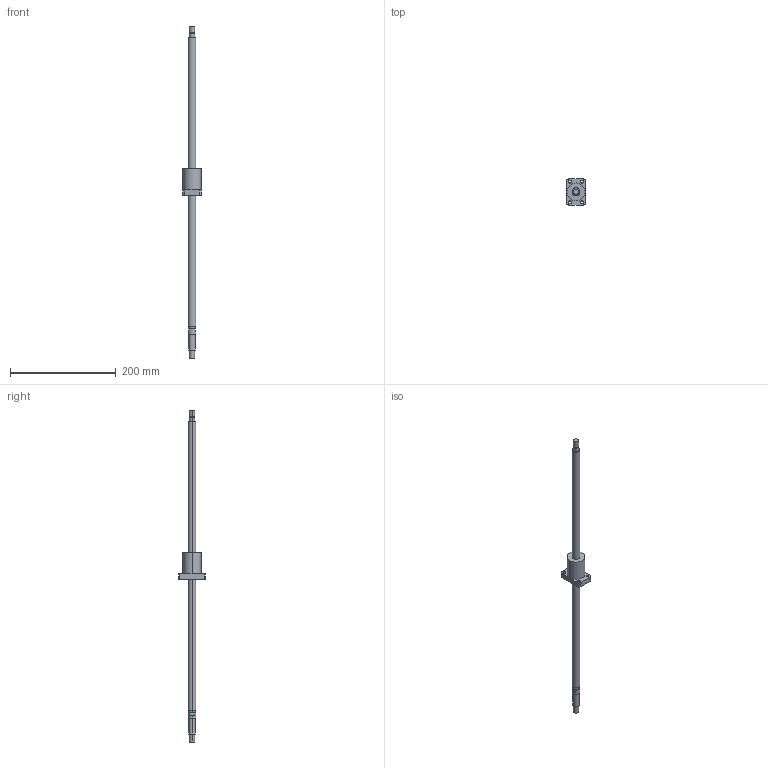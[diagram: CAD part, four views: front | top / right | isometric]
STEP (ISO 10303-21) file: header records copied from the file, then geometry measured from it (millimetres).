
FILE_DESCRIPTION((''),'2;1');
FILE_NAME('R15-10K3-FSC-539-621','2008-03-28T',('mahdi'),(''),'PRO/ENGINEER BY PARAMETRIC TECHNOLOGY CORPORATION, 2005070','PRO/ENGINEER BY PARAMETRIC TECHNOLOGY CORPORATION, 2005070','');
FILE_SCHEMA(('CONFIG_CONTROL_DESIGN'));
Length unit declared in the file: millimetre
Products named in the file (1): R15-10K3-FSC-539-621
Bounding box: 34 x 50 x 627 mm (x, y, z)
Volume: 147202.2 mm3; surface area: 36454.4 mm2
Topology: 1 solids, 1 shells, 66 faces, 148 edges, 96 vertices
Faces by surface type: cylinder 40, plane 26
Entity records: 1926 total; most frequent: DIRECTION 364, CARTESIAN_POINT 310, ORIENTED_EDGE 296, AXIS2_PLACEMENT_3D 150, EDGE_CURVE 148, VERTEX_POINT 96, EDGE_LOOP 86, CIRCLE 84
